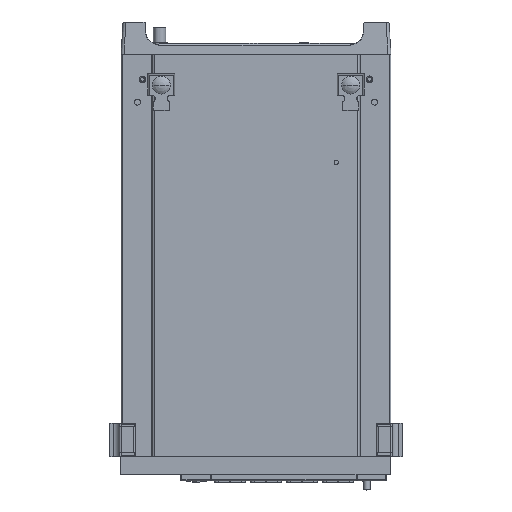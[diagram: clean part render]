
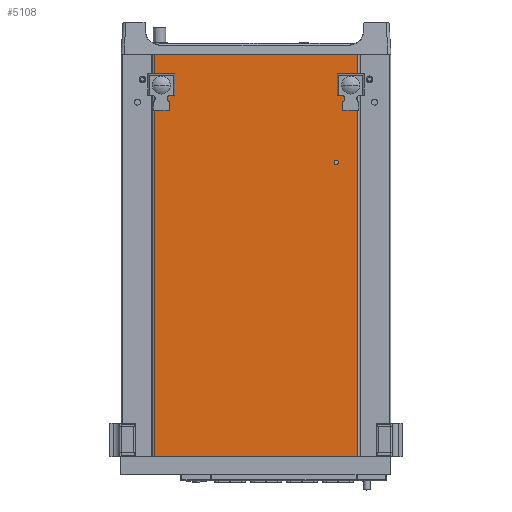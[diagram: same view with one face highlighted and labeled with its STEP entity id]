
A CAD part, front view. The second image highlights one B-rep face of the part: STEP entity #5108.
In plain terms, the highlighted planar face has unit normal (0, -1, 0).
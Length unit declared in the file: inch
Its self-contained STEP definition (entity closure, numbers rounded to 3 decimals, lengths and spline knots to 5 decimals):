
#1510=CARTESIAN_POINT('',(-7.015,0.,-1.72));
#1511=DIRECTION('',(0.,1.,0.));
#1512=DIRECTION('',(1.,0.,0.));
#1513=AXIS2_PLACEMENT_3D('',#1510,#1511,#1512);
#1515=CARTESIAN_POINT('',(-7.015,0.,-1.72));
#1516=DIRECTION('',(0.,1.,0.));
#1517=DIRECTION('',(-1.,0.,0.));
#1518=AXIS2_PLACEMENT_3D('',#1515,#1516,#1517);
#1520=CARTESIAN_POINT('',(-7.015,0.,-1.07));
#1521=DIRECTION('',(0.,1.,0.));
#1522=DIRECTION('',(1.,0.,0.));
#1523=AXIS2_PLACEMENT_3D('',#1520,#1521,#1522);
#1525=CARTESIAN_POINT('',(-7.015,0.,-1.07));
#1526=DIRECTION('',(0.,1.,0.));
#1527=DIRECTION('',(-1.,0.,0.));
#1528=AXIS2_PLACEMENT_3D('',#1525,#1526,#1527);
#1530=CARTESIAN_POINT('',(-1.105,0.,-1.72));
#1531=DIRECTION('',(0.,1.,0.));
#1532=DIRECTION('',(1.,0.,0.));
#1533=AXIS2_PLACEMENT_3D('',#1530,#1531,#1532);
#1535=CARTESIAN_POINT('',(-1.105,0.,-1.72));
#1536=DIRECTION('',(0.,1.,0.));
#1537=DIRECTION('',(-1.,0.,0.));
#1538=AXIS2_PLACEMENT_3D('',#1535,#1536,#1537);
#1540=CARTESIAN_POINT('',(-1.105,0.,-1.07));
#1541=DIRECTION('',(0.,1.,0.));
#1542=DIRECTION('',(1.,0.,0.));
#1543=AXIS2_PLACEMENT_3D('',#1540,#1541,#1542);
#1545=CARTESIAN_POINT('',(-1.105,0.,-1.07));
#1546=DIRECTION('',(0.,1.,0.));
#1547=DIRECTION('',(-1.,0.,0.));
#1548=AXIS2_PLACEMENT_3D('',#1545,#1546,#1547);
#1550=CARTESIAN_POINT('',(-1.555,0.,-3.48));
#1551=DIRECTION('',(0.,1.,0.));
#1552=DIRECTION('',(1.,0.,0.));
#1553=AXIS2_PLACEMENT_3D('',#1550,#1551,#1552);
#1555=CARTESIAN_POINT('',(-1.555,0.,-3.48));
#1556=DIRECTION('',(0.,1.,0.));
#1557=DIRECTION('',(-1.,0.,0.));
#1558=AXIS2_PLACEMENT_3D('',#1555,#1556,#1557);
#1560=DIRECTION('',(-1.,0.,0.));
#1561=VECTOR('',#1560,6.346);
#1562=CARTESIAN_POINT('',(-0.887,0.,-0.1));
#1563=LINE('',#1562,#1561);
#1564=DIRECTION('',(0.,0.,-1.));
#1565=VECTOR('',#1564,12.55);
#1566=CARTESIAN_POINT('',(-0.887,0.,-0.1));
#1567=LINE('',#1566,#1565);
#1568=DIRECTION('',(-1.,0.,0.));
#1569=VECTOR('',#1568,6.346);
#1570=CARTESIAN_POINT('',(-0.887,0.,-12.65));
#1571=LINE('',#1570,#1569);
#1690=DIRECTION('',(0.,0.,-1.));
#1691=VECTOR('',#1690,12.55);
#1692=CARTESIAN_POINT('',(-7.233,0.,-0.1));
#1693=LINE('',#1692,#1691);
#2494=CARTESIAN_POINT('',(-0.887,0.,-12.65));
#2495=CARTESIAN_POINT('',(-7.233,0.,-12.65));
#2496=VERTEX_POINT('',#2494);
#2497=VERTEX_POINT('',#2495);
#2534=CARTESIAN_POINT('',(-6.9185,0.,-1.72));
#2535=CARTESIAN_POINT('',(-7.1115,0.,-1.72));
#2536=VERTEX_POINT('',#2534);
#2537=VERTEX_POINT('',#2535);
#2538=CARTESIAN_POINT('',(-6.9085,0.,-1.07));
#2539=CARTESIAN_POINT('',(-7.1215,0.,-1.07));
#2540=VERTEX_POINT('',#2538);
#2541=VERTEX_POINT('',#2539);
#2542=CARTESIAN_POINT('',(-1.0085,0.,-1.72));
#2543=CARTESIAN_POINT('',(-1.2015,0.,-1.72));
#2544=VERTEX_POINT('',#2542);
#2545=VERTEX_POINT('',#2543);
#2546=CARTESIAN_POINT('',(-0.9985,0.,-1.07));
#2547=CARTESIAN_POINT('',(-1.2115,0.,-1.07));
#2548=VERTEX_POINT('',#2546);
#2549=VERTEX_POINT('',#2547);
#2598=CARTESIAN_POINT('',(-1.4865,0.,-3.48));
#2599=CARTESIAN_POINT('',(-1.6235,0.,-3.48));
#2600=VERTEX_POINT('',#2598);
#2601=VERTEX_POINT('',#2599);
#2698=CARTESIAN_POINT('',(-0.887,0.,-0.1));
#2699=VERTEX_POINT('',#2698);
#2700=CARTESIAN_POINT('',(-7.233,0.,-0.1));
#2701=VERTEX_POINT('',#2700);
#5065=CARTESIAN_POINT('',(-0.887,0.,0.));
#5066=DIRECTION('',(0.,-1.,0.));
#5067=DIRECTION('',(-1.,0.,0.));
#5068=AXIS2_PLACEMENT_3D('',#5065,#5066,#5067);
#5069=PLANE('',#5068);
#5071=ORIENTED_EDGE('',*,*,#5070,.F.);
#5073=ORIENTED_EDGE('',*,*,#5072,.T.);
#5075=ORIENTED_EDGE('',*,*,#5074,.T.);
#5077=ORIENTED_EDGE('',*,*,#5076,.F.);
#5078=EDGE_LOOP('',(#5071,#5073,#5075,#5077));
#5079=FACE_OUTER_BOUND('',#5078,.F.);
#5081=ORIENTED_EDGE('',*,*,#5080,.F.);
#5083=ORIENTED_EDGE('',*,*,#5082,.F.);
#5084=EDGE_LOOP('',(#5081,#5083));
#5085=FACE_BOUND('',#5084,.F.);
#5087=ORIENTED_EDGE('',*,*,#5086,.F.);
#5089=ORIENTED_EDGE('',*,*,#5088,.F.);
#5090=EDGE_LOOP('',(#5087,#5089));
#5091=FACE_BOUND('',#5090,.F.);
#5093=ORIENTED_EDGE('',*,*,#5092,.F.);
#5095=ORIENTED_EDGE('',*,*,#5094,.F.);
#5096=EDGE_LOOP('',(#5093,#5095));
#5097=FACE_BOUND('',#5096,.F.);
#5099=ORIENTED_EDGE('',*,*,#5098,.F.);
#5101=ORIENTED_EDGE('',*,*,#5100,.F.);
#5102=EDGE_LOOP('',(#5099,#5101));
#5103=FACE_BOUND('',#5102,.F.);
#5104=ORIENTED_EDGE('',*,*,#5045,.F.);
#5105=ORIENTED_EDGE('',*,*,#5059,.F.);
#5106=EDGE_LOOP('',(#5104,#5105));
#5107=FACE_BOUND('',#5106,.F.);
#5108=ADVANCED_FACE('',(#5079,#5085,#5091,#5097,#5103,#5107),#5069,.T.);
#1514=CIRCLE('',#1513,0.0965);
#1519=CIRCLE('',#1518,0.0965);
#1524=CIRCLE('',#1523,0.1065);
#1529=CIRCLE('',#1528,0.1065);
#1534=CIRCLE('',#1533,0.0965);
#1539=CIRCLE('',#1538,0.0965);
#1544=CIRCLE('',#1543,0.1065);
#1549=CIRCLE('',#1548,0.1065);
#1554=CIRCLE('',#1553,0.0685);
#1559=CIRCLE('',#1558,0.0685);
#5045=EDGE_CURVE('',#2536,#2537,#1514,.T.);
#5059=EDGE_CURVE('',#2537,#2536,#1519,.T.);
#5070=EDGE_CURVE('',#2699,#2701,#1563,.T.);
#5072=EDGE_CURVE('',#2699,#2496,#1567,.T.);
#5074=EDGE_CURVE('',#2496,#2497,#1571,.T.);
#5076=EDGE_CURVE('',#2701,#2497,#1693,.T.);
#5080=EDGE_CURVE('',#2540,#2541,#1524,.T.);
#5082=EDGE_CURVE('',#2541,#2540,#1529,.T.);
#5086=EDGE_CURVE('',#2544,#2545,#1534,.T.);
#5088=EDGE_CURVE('',#2545,#2544,#1539,.T.);
#5092=EDGE_CURVE('',#2548,#2549,#1544,.T.);
#5094=EDGE_CURVE('',#2549,#2548,#1549,.T.);
#5098=EDGE_CURVE('',#2600,#2601,#1554,.T.);
#5100=EDGE_CURVE('',#2601,#2600,#1559,.T.);
